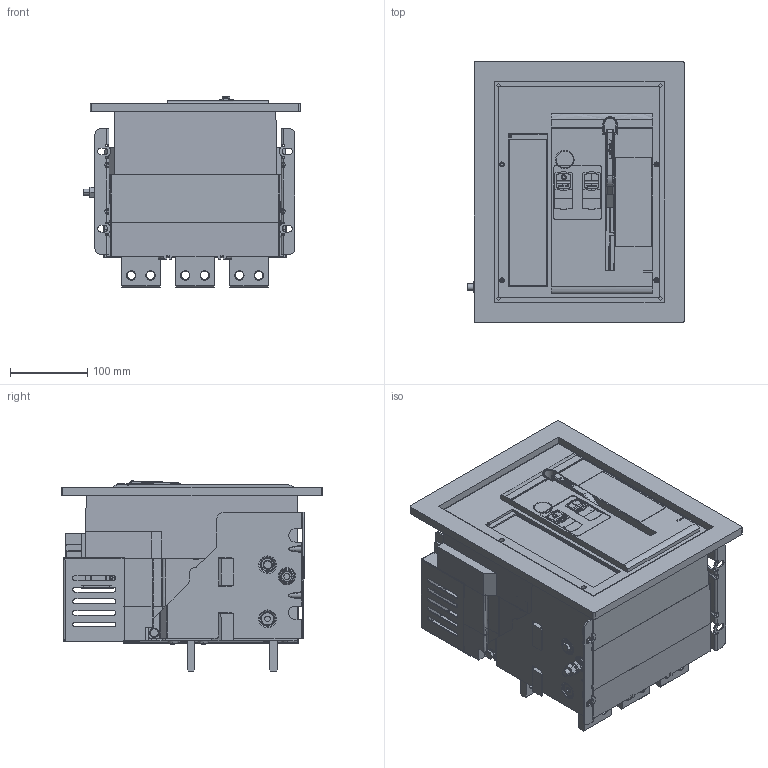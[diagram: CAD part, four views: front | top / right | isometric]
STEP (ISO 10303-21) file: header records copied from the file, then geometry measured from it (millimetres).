
FILE_DESCRIPTION (( 'STEP AP214' ), '1' );
FILE_NAME ('TGW1N-1600 F 3P 800A-1000A.STEP', '2026-05-21T08:57:16', ( '' ), ( '' ), 'SwSTEP 2.0', 'SolidWorks 2024', '' );
FILE_SCHEMA (( 'AUTOMOTIVE_DESIGN' ));
Products named in the file (1): TGW1N-1600 F 3P 800A-1000A
Bounding box: 280.06 x 338 x 246.06 mm (x, y, z)
Surface area: 1024797.5 mm2 (no closed solid volume)
Topology: 0 solids, 86 shells, 1939 faces, 11183 edges, 9009 vertices
Faces by surface type: plane 1153, cylinder 465, cone 163, torus 73, bspline 71, sphere 14
Entity records: 117702 total; most frequent: CARTESIAN_POINT 33530, DIRECTION 16174, ORIENTED_EDGE 15535, EDGE_CURVE 11176, VERTEX_POINT 9007, LINE 8302, VECTOR 8302, AXIS2_PLACEMENT_3D 3936
